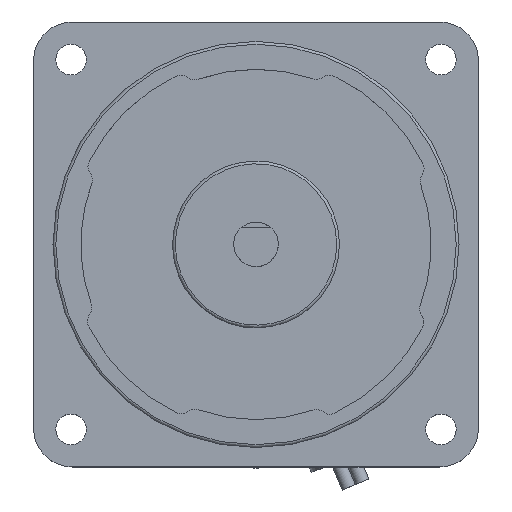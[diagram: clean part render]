
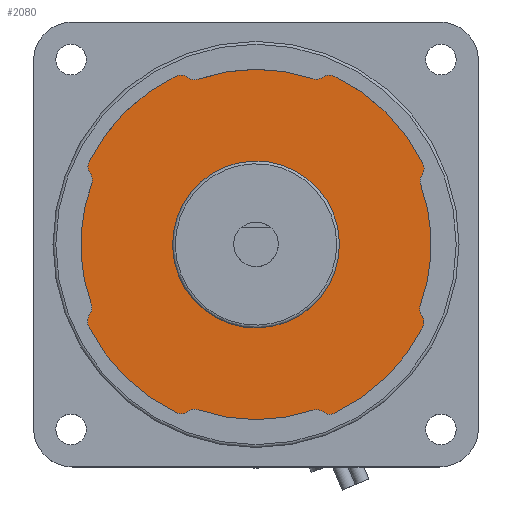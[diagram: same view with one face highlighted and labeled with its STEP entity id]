
A CAD part, top view. The second image highlights one B-rep face of the part: STEP entity #2080.
In plain terms, the highlighted planar face has unit normal (0, 0, 1).
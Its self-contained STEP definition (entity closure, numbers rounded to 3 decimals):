
#1049=CARTESIAN_POINT('',(5.498,-13.956,2.0));
#1050=VERTEX_POINT('',#1049);
#1051=CARTESIAN_POINT('',(0.0,0.0,2.));
#1052=DIRECTION('',(0.0,0.0,1.0));
#1053=DIRECTION('',(1.0,0.0,0.0));
#1054=AXIS2_PLACEMENT_3D('',#1051,#1052,#1053);
#1055=CIRCLE('',#1054,15.0);
#1056=EDGE_CURVE('',#1050,#1050,#1055,.T.);
#1364=CARTESIAN_POINT('',(-30.013,14.882,2.));
#1365=VERTEX_POINT('',#1364);
#1366=CARTESIAN_POINT('',(-29.824,12.797,2.));
#1367=VERTEX_POINT('',#1366);
#1368=CARTESIAN_POINT('',(-28.221,13.993,2.));
#1369=DIRECTION('',(0.0,0.0,1.0));
#1370=DIRECTION('',(0.896,-0.444,0.0));
#1371=AXIS2_PLACEMENT_3D('',#1368,#1369,#1370);
#1372=CIRCLE('',#1371,2.);
#1373=EDGE_CURVE('',#1365,#1367,#1372,.T.);
#1396=CARTESIAN_POINT('',(-29.551,10.908,2.));
#1397=VERTEX_POINT('',#1396);
#1398=CARTESIAN_POINT('',(-31.427,11.601,2.));
#1399=DIRECTION('',(0.0,0.0,-1.0));
#1400=DIRECTION('',(0.938,-0.346,0.0));
#1401=AXIS2_PLACEMENT_3D('',#1398,#1399,#1400);
#1402=CIRCLE('',#1401,2.0);
#1403=EDGE_CURVE('',#1367,#1397,#1402,.T.);
#1421=CARTESIAN_POINT('',(-29.624,-10.708,2.));
#1422=VERTEX_POINT('',#1421);
#1423=CARTESIAN_POINT('',(0.0,0.0,2.));
#1424=DIRECTION('',(0.0,0.0,1.0));
#1425=DIRECTION('',(0.938,-0.346,0.0));
#1426=AXIS2_PLACEMENT_3D('',#1423,#1424,#1425);
#1427=CIRCLE('',#1426,31.5);
#1428=EDGE_CURVE('',#1397,#1422,#1427,.T.);
#1446=CARTESIAN_POINT('',(-29.902,-12.584,2.));
#1447=VERTEX_POINT('',#1446);
#1448=CARTESIAN_POINT('',(-31.505,-11.388,2.));
#1449=DIRECTION('',(0.0,0.0,-1.0));
#1450=DIRECTION('',(0.801,-0.598,0.0));
#1451=AXIS2_PLACEMENT_3D('',#1448,#1449,#1450);
#1452=CIRCLE('',#1451,2.0);
#1453=EDGE_CURVE('',#1422,#1447,#1452,.T.);
#1471=CARTESIAN_POINT('',(-30.097,-14.656,2.));
#1472=VERTEX_POINT('',#1471);
#1473=CARTESIAN_POINT('',(-28.299,-13.78,2.));
#1474=DIRECTION('',(0.0,0.0,1.0));
#1475=DIRECTION('',(0.801,-0.598,0.0));
#1476=AXIS2_PLACEMENT_3D('',#1473,#1474,#1475);
#1477=CIRCLE('',#1476,2.);
#1478=EDGE_CURVE('',#1447,#1472,#1477,.T.);
#1496=CARTESIAN_POINT('',(-14.331,-30.253,2.));
#1497=VERTEX_POINT('',#1496);
#1498=CARTESIAN_POINT('',(0.0,0.0,2.));
#1499=DIRECTION('',(0.0,0.0,1.0));
#1500=DIRECTION('',(0.899,0.438,0.0));
#1501=AXIS2_PLACEMENT_3D('',#1498,#1499,#1500);
#1502=CIRCLE('',#1501,33.476);
#1503=EDGE_CURVE('',#1472,#1497,#1502,.T.);
#1521=CARTESIAN_POINT('',(-12.262,-30.036,2.));
#1522=VERTEX_POINT('',#1521);
#1523=CARTESIAN_POINT('',(-13.475,-28.446,2.));
#1524=DIRECTION('',(0.0,0.0,1.0));
#1525=DIRECTION('',(0.428,0.904,0.0));
#1526=AXIS2_PLACEMENT_3D('',#1523,#1524,#1525);
#1527=CIRCLE('',#1526,2.0);
#1528=EDGE_CURVE('',#1497,#1522,#1527,.T.);
#1546=CARTESIAN_POINT('',(-10.389,-29.738,2.));
#1547=VERTEX_POINT('',#1546);
#1548=CARTESIAN_POINT('',(-11.048,-31.626,2.));
#1549=DIRECTION('',(0.0,0.0,-1.0));
#1550=DIRECTION('',(0.33,0.944,0.0));
#1551=AXIS2_PLACEMENT_3D('',#1548,#1549,#1550);
#1552=CIRCLE('',#1551,2.);
#1553=EDGE_CURVE('',#1522,#1547,#1552,.T.);
#1571=CARTESIAN_POINT('',(10.189,-29.807,2.));
#1572=VERTEX_POINT('',#1571);
#1573=CARTESIAN_POINT('',(0.0,0.0,2.));
#1574=DIRECTION('',(0.0,0.0,1.0));
#1575=DIRECTION('',(0.33,0.944,0.0));
#1576=AXIS2_PLACEMENT_3D('',#1573,#1574,#1575);
#1577=CIRCLE('',#1576,31.5);
#1578=EDGE_CURVE('',#1547,#1572,#1577,.T.);
#1596=CARTESIAN_POINT('',(12.049,-30.109,2.));
#1597=VERTEX_POINT('',#1596);
#1598=CARTESIAN_POINT('',(10.836,-31.699,2.));
#1599=DIRECTION('',(0.0,0.0,-1.0));
#1600=DIRECTION('',(0.607,0.795,0.0));
#1601=AXIS2_PLACEMENT_3D('',#1598,#1599,#1600);
#1602=CIRCLE('',#1601,2.0);
#1603=EDGE_CURVE('',#1572,#1597,#1602,.T.);
#1621=CARTESIAN_POINT('',(14.106,-30.332,2.));
#1622=VERTEX_POINT('',#1621);
#1623=CARTESIAN_POINT('',(13.263,-28.519,2.));
#1624=DIRECTION('',(0.0,0.0,1.0));
#1625=DIRECTION('',(0.607,0.795,0.0));
#1626=AXIS2_PLACEMENT_3D('',#1623,#1624,#1625);
#1627=CIRCLE('',#1626,2.);
#1628=EDGE_CURVE('',#1597,#1622,#1627,.T.);
#1646=CARTESIAN_POINT('',(29.984,-14.832,2.));
#1647=VERTEX_POINT('',#1646);
#1648=CARTESIAN_POINT('',(0.0,0.0,2.));
#1649=DIRECTION('',(0.0,0.0,1.0));
#1650=DIRECTION('',(-0.422,0.907,0.0));
#1651=AXIS2_PLACEMENT_3D('',#1648,#1649,#1650);
#1652=CIRCLE('',#1651,33.452);
#1653=EDGE_CURVE('',#1622,#1647,#1652,.T.);
#1671=CARTESIAN_POINT('',(29.81,-12.771,2.));
#1672=VERTEX_POINT('',#1671);
#1673=CARTESIAN_POINT('',(28.191,-13.945,2.));
#1674=DIRECTION('',(0.0,0.0,1.0));
#1675=DIRECTION('',(-0.896,0.443,0.0));
#1676=AXIS2_PLACEMENT_3D('',#1673,#1674,#1675);
#1677=CIRCLE('',#1676,2.);
#1678=EDGE_CURVE('',#1647,#1672,#1677,.T.);
#1696=CARTESIAN_POINT('',(29.553,-10.904,2.));
#1697=VERTEX_POINT('',#1696);
#1698=CARTESIAN_POINT('',(31.429,-11.596,2.));
#1699=DIRECTION('',(0.0,0.0,-1.0));
#1700=DIRECTION('',(-0.938,0.346,0.0));
#1701=AXIS2_PLACEMENT_3D('',#1698,#1699,#1700);
#1702=CIRCLE('',#1701,2.0);
#1703=EDGE_CURVE('',#1672,#1697,#1702,.T.);
#1721=CARTESIAN_POINT('',(29.624,10.709,2.));
#1722=VERTEX_POINT('',#1721);
#1723=CARTESIAN_POINT('',(0.0,0.0,2.));
#1724=DIRECTION('',(0.0,0.0,1.0));
#1725=DIRECTION('',(-0.938,0.346,0.0));
#1726=AXIS2_PLACEMENT_3D('',#1723,#1724,#1725);
#1727=CIRCLE('',#1726,31.5);
#1728=EDGE_CURVE('',#1697,#1722,#1727,.T.);
#1746=CARTESIAN_POINT('',(29.862,12.531,2.));
#1747=VERTEX_POINT('',#1746);
#1748=CARTESIAN_POINT('',(31.505,11.389,2.));
#1749=DIRECTION('',(0.0,0.0,-1.0));
#1750=DIRECTION('',(-0.821,0.571,0.0));
#1751=AXIS2_PLACEMENT_3D('',#1748,#1749,#1750);
#1752=CIRCLE('',#1751,2.);
#1753=EDGE_CURVE('',#1722,#1747,#1752,.T.);
#1771=CARTESIAN_POINT('',(30.02,14.544,2.));
#1772=VERTEX_POINT('',#1771);
#1773=CARTESIAN_POINT('',(28.22,13.672,2.));
#1774=DIRECTION('',(0.0,0.0,1.0));
#1775=DIRECTION('',(-0.821,0.571,0.0));
#1776=AXIS2_PLACEMENT_3D('',#1773,#1774,#1775);
#1777=CIRCLE('',#1776,2.);
#1778=EDGE_CURVE('',#1747,#1772,#1777,.T.);
#1796=CARTESIAN_POINT('',(14.017,30.27,2.));
#1797=VERTEX_POINT('',#1796);
#1798=CARTESIAN_POINT('',(0.0,0.0,2.));
#1799=DIRECTION('',(0.0,0.0,1.0));
#1800=DIRECTION('',(-0.9,-0.436,0.0));
#1801=AXIS2_PLACEMENT_3D('',#1798,#1799,#1800);
#1802=CIRCLE('',#1801,33.358);
#1803=EDGE_CURVE('',#1772,#1797,#1802,.T.);
#1821=CARTESIAN_POINT('',(12.006,30.077,2.));
#1822=VERTEX_POINT('',#1821);
#1823=CARTESIAN_POINT('',(13.176,28.455,2.));
#1824=DIRECTION('',(0.0,0.0,1.0));
#1825=DIRECTION('',(-0.42,-0.907,0.0));
#1826=AXIS2_PLACEMENT_3D('',#1823,#1824,#1825);
#1827=CIRCLE('',#1826,2.);
#1828=EDGE_CURVE('',#1797,#1822,#1827,.T.);
#1846=CARTESIAN_POINT('',(10.189,29.807,2.));
#1847=VERTEX_POINT('',#1846);
#1848=CARTESIAN_POINT('',(10.836,31.699,2.));
#1849=DIRECTION('',(0.0,0.0,-1.0));
#1850=DIRECTION('',(-0.323,-0.946,0.0));
#1851=AXIS2_PLACEMENT_3D('',#1848,#1849,#1850);
#1852=CIRCLE('',#1851,2.);
#1853=EDGE_CURVE('',#1822,#1847,#1852,.T.);
#1871=CARTESIAN_POINT('',(-10.398,29.734,2.));
#1872=VERTEX_POINT('',#1871);
#1873=CARTESIAN_POINT('',(0.0,0.0,2.));
#1874=DIRECTION('',(0.0,0.0,1.0));
#1875=DIRECTION('',(-0.323,-0.946,0.0));
#1876=AXIS2_PLACEMENT_3D('',#1873,#1874,#1875);
#1877=CIRCLE('',#1876,31.5);
#1878=EDGE_CURVE('',#1847,#1872,#1877,.T.);
#1896=CARTESIAN_POINT('',(-12.282,30.04,2.));
#1897=VERTEX_POINT('',#1896);
#1898=CARTESIAN_POINT('',(-11.058,31.622,2.));
#1899=DIRECTION('',(0.0,0.0,-1.0));
#1900=DIRECTION('',(-0.612,-0.791,0.0));
#1901=AXIS2_PLACEMENT_3D('',#1898,#1899,#1900);
#1902=CIRCLE('',#1901,2.);
#1903=EDGE_CURVE('',#1872,#1897,#1902,.T.);
#1921=CARTESIAN_POINT('',(-14.363,30.265,2.));
#1922=VERTEX_POINT('',#1921);
#1923=CARTESIAN_POINT('',(-13.505,28.458,2.));
#1924=DIRECTION('',(0.0,0.0,1.0));
#1925=DIRECTION('',(-0.612,-0.791,0.0));
#1926=AXIS2_PLACEMENT_3D('',#1923,#1924,#1925);
#1927=CIRCLE('',#1926,2.);
#1928=EDGE_CURVE('',#1897,#1922,#1927,.T.);
#1946=CARTESIAN_POINT('',(0.0,0.0,2.));
#1947=DIRECTION('',(0.0,0.0,1.0));
#1948=DIRECTION('',(0.429,-0.903,0.0));
#1949=AXIS2_PLACEMENT_3D('',#1946,#1947,#1948);
#1950=CIRCLE('',#1949,33.5);
#1951=EDGE_CURVE('',#1922,#1365,#1950,.T.);
#2046=CARTESIAN_POINT('',(-0.045,-0.02,2.));
#2047=DIRECTION('',(0.0,0.0,1.0));
#2048=DIRECTION('',(1.0,0.0,0.0));
#2049=AXIS2_PLACEMENT_3D('',#2046,#2047,#2048);
#2050=PLANE('',#2049);
#2051=ORIENTED_EDGE('',*,*,#1951,.T.);
#2052=ORIENTED_EDGE('',*,*,#1373,.T.);
#2053=ORIENTED_EDGE('',*,*,#1403,.T.);
#2054=ORIENTED_EDGE('',*,*,#1428,.T.);
#2055=ORIENTED_EDGE('',*,*,#1453,.T.);
#2056=ORIENTED_EDGE('',*,*,#1478,.T.);
#2057=ORIENTED_EDGE('',*,*,#1503,.T.);
#2058=ORIENTED_EDGE('',*,*,#1528,.T.);
#2059=ORIENTED_EDGE('',*,*,#1553,.T.);
#2060=ORIENTED_EDGE('',*,*,#1578,.T.);
#2061=ORIENTED_EDGE('',*,*,#1603,.T.);
#2062=ORIENTED_EDGE('',*,*,#1628,.T.);
#2063=ORIENTED_EDGE('',*,*,#1653,.T.);
#2064=ORIENTED_EDGE('',*,*,#1678,.T.);
#2065=ORIENTED_EDGE('',*,*,#1703,.T.);
#2066=ORIENTED_EDGE('',*,*,#1728,.T.);
#2067=ORIENTED_EDGE('',*,*,#1753,.T.);
#2068=ORIENTED_EDGE('',*,*,#1778,.T.);
#2069=ORIENTED_EDGE('',*,*,#1803,.T.);
#2070=ORIENTED_EDGE('',*,*,#1828,.T.);
#2071=ORIENTED_EDGE('',*,*,#1853,.T.);
#2072=ORIENTED_EDGE('',*,*,#1878,.T.);
#2073=ORIENTED_EDGE('',*,*,#1903,.T.);
#2074=ORIENTED_EDGE('',*,*,#1928,.T.);
#2075=EDGE_LOOP('',(#2051,#2052,#2053,#2054,#2055,#2056,#2057,#2058,#2059,#2060,#2061,#2062,#2063,#2064,#2065,#2066,#2067,#2068,#2069,#2070,#2071,#2072,#2073,#2074));
#2076=FACE_OUTER_BOUND('',#2075,.T.);
#2077=ORIENTED_EDGE('',*,*,#1056,.F.);
#2078=EDGE_LOOP('',(#2077));
#2079=FACE_BOUND('',#2078,.T.);
#2080=ADVANCED_FACE('',(#2076,#2079),#2050,.T.);
